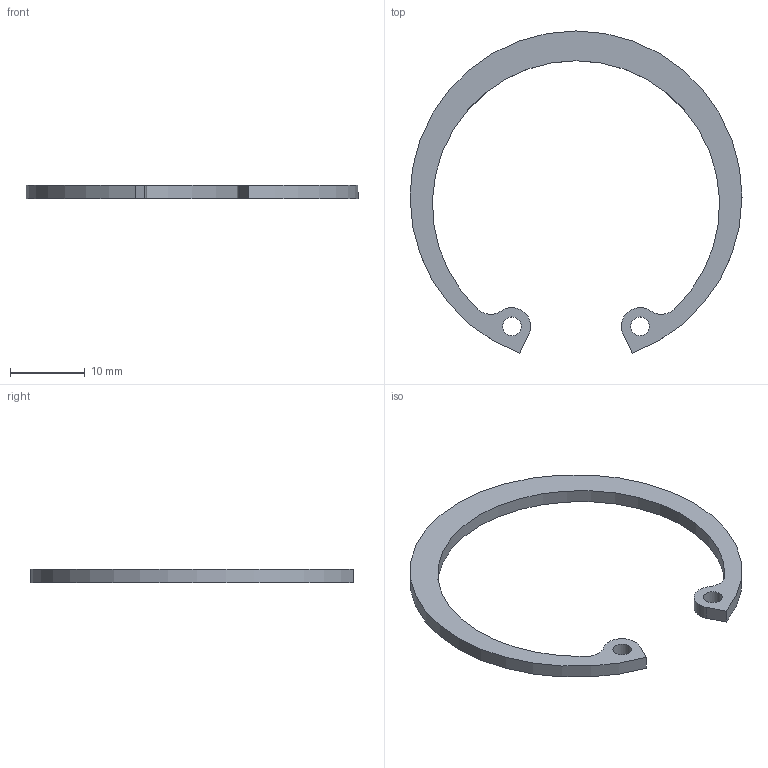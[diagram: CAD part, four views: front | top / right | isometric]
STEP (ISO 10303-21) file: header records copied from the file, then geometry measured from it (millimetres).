
FILE_DESCRIPTION(/* description */ ('리테이닝 링(C형)'),/* implementation_level */ '2;1');
FILE_NAME(/* name */ '',/* time_stamp */ '2026-03-27T11:21:43+09:00',/* author */ ('jhkim'),/* organization */ (''),/* preprocessor_version */ 'ST-DEVELOPER v20.1',/* originating_system */ 'Autodesk Inventor 2026',/* authorisation */ '');
FILE_SCHEMA (('AUTOMOTIVE_DESIGN { 1 0 10303 214 3 1 1 }'));
Length unit declared in the file: millimetre
Products named in the file (1): C형 멈춤 링 구멍용 
42
Bounding box: 44.5 x 43.17 x 1.8 mm (x, y, z)
Volume: 686.3 mm3; surface area: 1226.2 mm2
Topology: 1 solids, 1 shells, 12 faces, 30 edges, 20 vertices
Faces by surface type: cylinder 8, plane 4
Full cylindrical faces by diameter (mm): 2.5 x2
Entity records: 421 total; most frequent: DIRECTION 72, CARTESIAN_POINT 63, ORIENTED_EDGE 60, EDGE_CURVE 30, AXIS2_PLACEMENT_3D 29, VERTEX_POINT 20, EDGE_LOOP 16, CIRCLE 16
